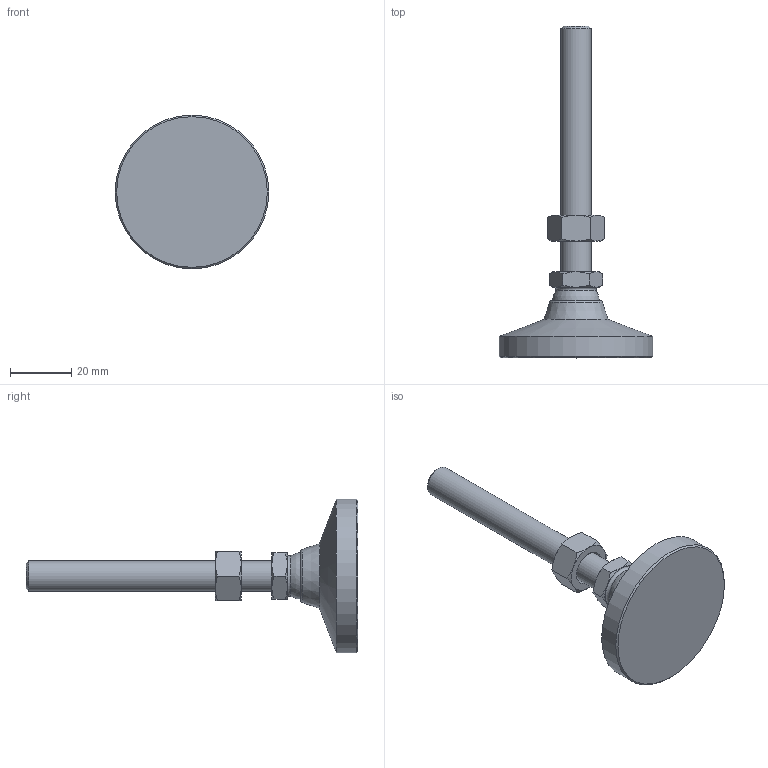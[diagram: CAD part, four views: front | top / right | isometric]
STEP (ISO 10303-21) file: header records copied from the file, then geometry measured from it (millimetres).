
FILE_DESCRIPTION( ( 'STEP AP214' ), ' ' );
FILE_NAME( 'O:/ganter_2015/teil_2/2_5/gn343_2/gn343_2_os/Levelling foot with threaded stud GN 343.2-50-M10-80-OS-(0).stp', '2015-10-26T09:07:52', ( '' ), ( '' ), ' ', 'PARTsolutions', ' ' );
FILE_SCHEMA( ( 'AUTOMOTIVE_DESIGN { 1 0 10303 214 1 1 1 1 }' ) );
Length unit declared in the file: millimetre
Products named in the file (4): Levelling foot with threaded stud GN 343.2-50-M10-80-OS-(0); _Levelling foot with threaded stud GN 343.2-50-M10-80-OS-(0)_foot; _Levelling foot with threaded stud GN 343.2-50-M10-80-OS-(0)_screw; _Stainless Steel-Levelling feet GN 343.2-50-M10-80-OS-(0)_nut
Assembly tree (3 placements, depth 2):
  Levelling foot with threaded stud GN 343.2-50-M10-80-OS-(0)
    _Levelling foot with threaded stud GN 343.2-50-M10-80-OS-(0)_foot
    _Levelling foot with threaded stud GN 343.2-50-M10-80-OS-(0)_screw
    _Stainless Steel-Levelling feet GN 343.2-50-M10-80-OS-(0)_nut
Bounding box: 50 x 108 x 50 mm (x, y, z)
Volume: 30500.2 mm3; surface area: 10155.9 mm2
Topology: 3 solids, 3 shells, 56 faces, 117 edges, 68 vertices
Faces by surface type: cone 30, plane 19, cylinder 3, torus 2, sphere 2
Full cylindrical faces by diameter (mm): 8.376 x1, 10 x1, 50 x1
Entity records: 2066 total; most frequent: CARTESIAN_POINT 498, DIRECTION 212, ORIENTED_EDGE 200, AXIS2_PLACEMENT_3D 100, EDGE_CURVE 100, EDGE_LOOP 72, VERTEX_POINT 66, FACE_OUTER_BOUND 61
